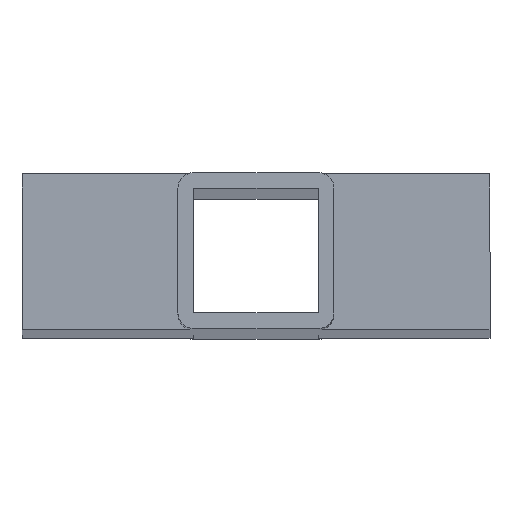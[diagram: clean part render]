
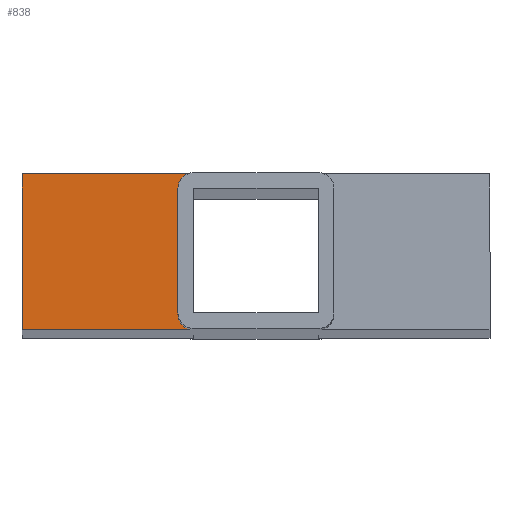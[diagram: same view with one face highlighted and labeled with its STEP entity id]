
A CAD part, top view. The second image highlights one B-rep face of the part: STEP entity #838.
In plain terms, the highlighted planar face has unit normal (0, 0, 1).
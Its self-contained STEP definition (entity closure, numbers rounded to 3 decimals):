
#6 = ORIENTED_EDGE ( 'NONE', *, *, #677, .F. ) ;
#62 = CARTESIAN_POINT ( 'NONE',  ( 0., -15., 450. ) ) ;
#66 = CARTESIAN_POINT ( 'NONE',  ( -15., -12., 450. ) ) ;
#76 = CARTESIAN_POINT ( 'NONE',  ( 0., 15., 450. ) ) ;
#161 = CARTESIAN_POINT ( 'NONE',  ( -15., 12., 450. ) ) ;
#179 = VECTOR ( 'NONE', #1228, 1000. ) ;
#183 = AXIS2_PLACEMENT_3D ( 'NONE', #1180, #778, #588 ) ;
#186 = CARTESIAN_POINT ( 'NONE',  ( -15., 0., 450. ) ) ;
#189 = DIRECTION ( 'NONE',  ( 0., 0., 1. ) ) ;
#200 = VERTEX_POINT ( 'NONE', #161 ) ;
#244 = FACE_OUTER_BOUND ( 'NONE', #842, .T. ) ;
#251 = CARTESIAN_POINT ( 'NONE',  ( -12., 15., 450. ) ) ;
#252 = EDGE_CURVE ( 'NONE', #275, #1133, #373, .T. ) ;
#256 = VERTEX_POINT ( 'NONE', #66 ) ;
#269 = EDGE_CURVE ( 'NONE', #1133, #200, #614, .T. ) ;
#275 = VERTEX_POINT ( 'NONE', #477 ) ;
#352 = ORIENTED_EDGE ( 'NONE', *, *, #269, .F. ) ;
#360 = ORIENTED_EDGE ( 'NONE', *, *, #411, .F. ) ;
#373 = LINE ( 'NONE', #76, #529 ) ;
#411 = EDGE_CURVE ( 'NONE', #256, #1210, #1152, .T. ) ;
#428 = VERTEX_POINT ( 'NONE', #664 ) ;
#470 = DIRECTION ( 'NONE',  ( 0., 1., 0. ) ) ;
#477 = CARTESIAN_POINT ( 'NONE',  ( -45., 15., 450. ) ) ;
#485 = LINE ( 'NONE', #62, #695 ) ;
#529 = VECTOR ( 'NONE', #921, 1000. ) ;
#534 = ORIENTED_EDGE ( 'NONE', *, *, #1221, .F. ) ;
#588 = DIRECTION ( 'NONE',  ( 1., 0., 0. ) ) ;
#591 = EDGE_CURVE ( 'NONE', #428, #275, #814, .T. ) ;
#614 = CIRCLE ( 'NONE', #1025, 3. ) ;
#616 = CARTESIAN_POINT ( 'NONE',  ( -12., -15., 450. ) ) ;
#625 = ORIENTED_EDGE ( 'NONE', *, *, #252, .F. ) ;
#664 = CARTESIAN_POINT ( 'NONE',  ( -45., -15., 450. ) ) ;
#677 = EDGE_CURVE ( 'NONE', #200, #256, #1097, .T. ) ;
#695 = VECTOR ( 'NONE', #896, 1000. ) ;
#778 = DIRECTION ( 'NONE',  ( 0., 0., 1. ) ) ;
#787 = PLANE ( 'NONE',  #183 ) ;
#814 = LINE ( 'NONE', #825, #875 ) ;
#822 = AXIS2_PLACEMENT_3D ( 'NONE', #851, #956, #1148 ) ;
#825 = CARTESIAN_POINT ( 'NONE',  ( -45., 0., 450. ) ) ;
#835 = ORIENTED_EDGE ( 'NONE', *, *, #591, .F. ) ;
#838 = ADVANCED_FACE ( 'NONE', ( #244 ), #787, .T. ) ;
#842 = EDGE_LOOP ( 'NONE', ( #352, #625, #835, #534, #360, #6 ) ) ;
#851 = CARTESIAN_POINT ( 'NONE',  ( -12., -12., 450. ) ) ;
#875 = VECTOR ( 'NONE', #470, 1000. ) ;
#896 = DIRECTION ( 'NONE',  ( -1., 0., 0. ) ) ;
#921 = DIRECTION ( 'NONE',  ( 1., 0., 0. ) ) ;
#944 = CARTESIAN_POINT ( 'NONE',  ( -12., 12., 450. ) ) ;
#956 = DIRECTION ( 'NONE',  ( 0., 0., 1. ) ) ;
#1025 = AXIS2_PLACEMENT_3D ( 'NONE', #944, #189, #1135 ) ;
#1097 = LINE ( 'NONE', #186, #179 ) ;
#1133 = VERTEX_POINT ( 'NONE', #251 ) ;
#1135 = DIRECTION ( 'NONE',  ( 1., 0., 0. ) ) ;
#1148 = DIRECTION ( 'NONE',  ( 1., 0., 0. ) ) ;
#1152 = CIRCLE ( 'NONE', #822, 3. ) ;
#1180 = CARTESIAN_POINT ( 'NONE',  ( 0., 0., 450. ) ) ;
#1210 = VERTEX_POINT ( 'NONE', #616 ) ;
#1221 = EDGE_CURVE ( 'NONE', #1210, #428, #485, .T. ) ;
#1228 = DIRECTION ( 'NONE',  ( 0., -1., 0. ) ) ;
